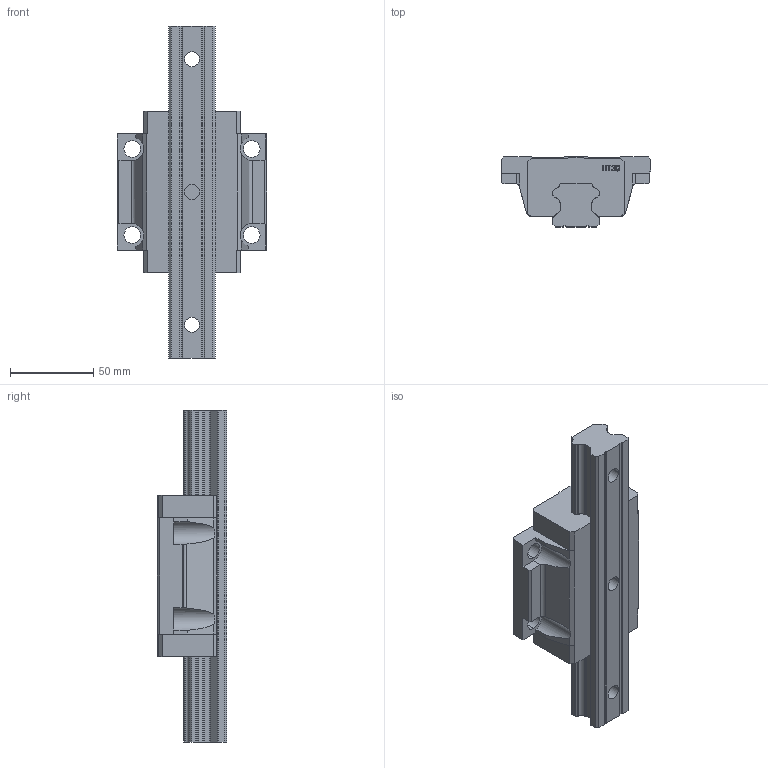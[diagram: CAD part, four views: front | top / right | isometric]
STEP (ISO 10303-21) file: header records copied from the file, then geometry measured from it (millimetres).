
FILE_DESCRIPTION (( 'STEP AP214' ), '1' );
FILE_NAME ('7.1004 Lineaarikelkka HTW30CC.STEP', '2026-03-11T10:58:52', ( '' ), ( '' ), 'SwSTEP 2.0', 'SolidWorks 2025', '' );
FILE_SCHEMA (( 'AUTOMOTIVE_DESIGN' ));
Length unit declared in the file: millimetre
Products named in the file (3): 7.1004 Lineaarikelkka HTW30CC; HTW30; HTR30
Assembly tree (2 placements, depth 2):
  7.1004 Lineaarikelkka HTW30CC
    HTW30
    HTR30
Bounding box: 90 x 42 x 200 mm (x, y, z)
Volume: 304054.4 mm3; surface area: 57301.3 mm2
Topology: 2 solids, 2 shells, 752 faces, 2130 edges, 1420 vertices
Faces by surface type: plane 659, cylinder 68, bspline 25
Entity records: 34829 total; most frequent: CARTESIAN_POINT 7052, ORIENTED_EDGE 4260, DIRECTION 3603, EDGE_CURVE 2130, LINE 1917, VECTOR 1917, VERTEX_POINT 1420, AXIS2_PLACEMENT_3D 843
